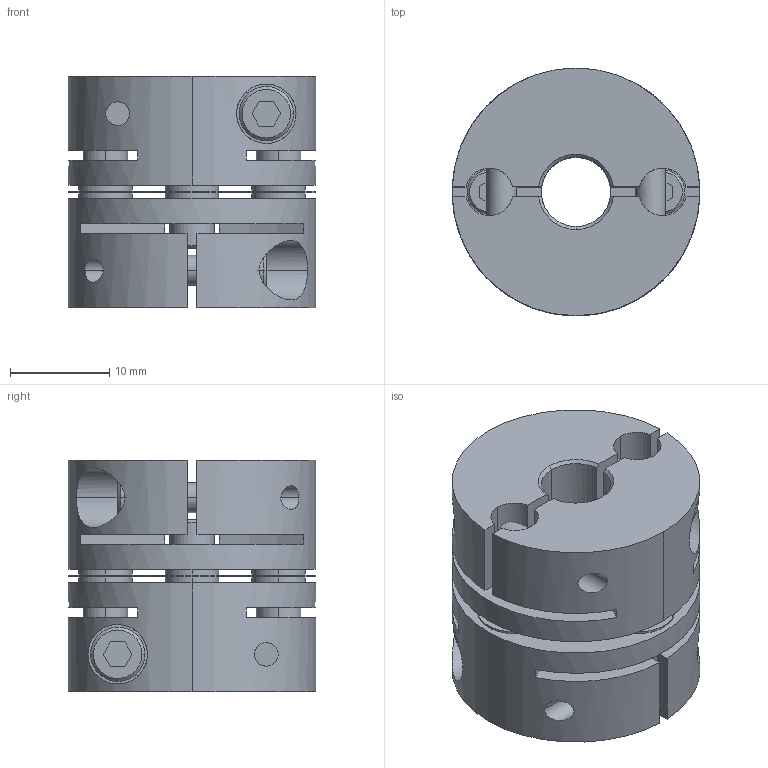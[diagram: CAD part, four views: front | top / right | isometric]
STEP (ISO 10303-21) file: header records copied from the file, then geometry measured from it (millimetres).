
FILE_DESCRIPTION((''),'2;1');
FILE_NAME('LAS-25C-7×7.stp','2011-08-10T10:24:45',(''),(''),'AutoCAD STEP 2000i','AutoCAD 2000i',', , ');
FILE_SCHEMA(('CONFIG_CONTROL_DESIGN'));
Length unit declared in the file: millimetre
Products named in the file (5): LAS-25C-6×6; 忣兜1; LA-2502-D06-1; LA-2502-D06; LAS25-ITA
Assembly tree (4 placements, depth 2):
  LAS-25C-6×6
    忣兜1
    LA-2502-D06-1
    LA-2502-D06
    LAS25-ITA
Bounding box: 25 x 25 x 23.4 mm (x, y, z)
Volume: 8665.1 mm3; surface area: 6903.9 mm2
Topology: 1 solids, 1 shells, 244 faces, 648 edges, 424 vertices
Faces by surface type: plane 112, cylinder 104, cone 28
Entity records: 8499 total; most frequent: CARTESIAN_POINT 2121, DIRECTION 1326, ORIENTED_EDGE 1296, EDGE_CURVE 648, AXIS2_PLACEMENT_3D 485, VERTEX_POINT 424, VECTOR 356, LINE 356
